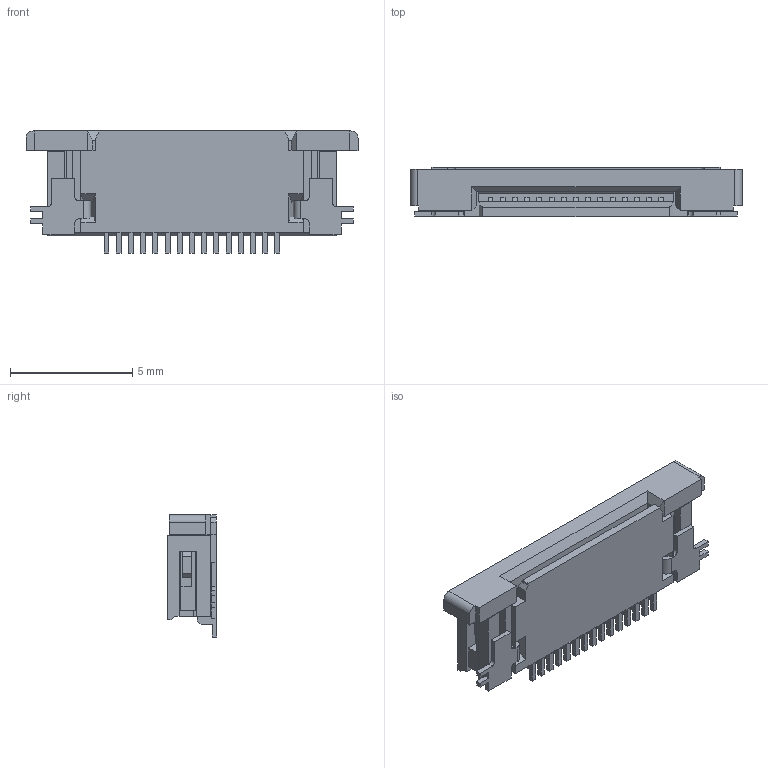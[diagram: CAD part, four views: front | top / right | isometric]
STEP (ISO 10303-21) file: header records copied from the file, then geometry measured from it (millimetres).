
FILE_DESCRIPTION((''),'2;1');
FILE_NAME('527461571','2019-05-22T',('gga'),(''),'PRO/ENGINEER BY PARAMETRIC TECHNOLOGY CORPORATION, 2016010','PRO/ENGINEER BY PARAMETRIC TECHNOLOGY CORPORATION, 2016010','');
FILE_SCHEMA(('CONFIG_CONTROL_DESIGN'));
Length unit declared in the file: millimetre
Products named in the file (1): 527461571
Bounding box: 13.6 x 2.02 x 5 mm (x, y, z)
Volume: 82.6 mm3; surface area: 328.7 mm2
Topology: 1 solids, 3 shells, 527 faces, 1581 edges, 1064 vertices
Faces by surface type: plane 481, cylinder 46
Entity records: 17407 total; most frequent: CARTESIAN_POINT 3123, ORIENTED_EDGE 3018, DIRECTION 2723, EDGE_CURVE 1509, VECTOR 1479, LINE 1479, VERTEX_POINT 992, AXIS2_PLACEMENT_3D 622
